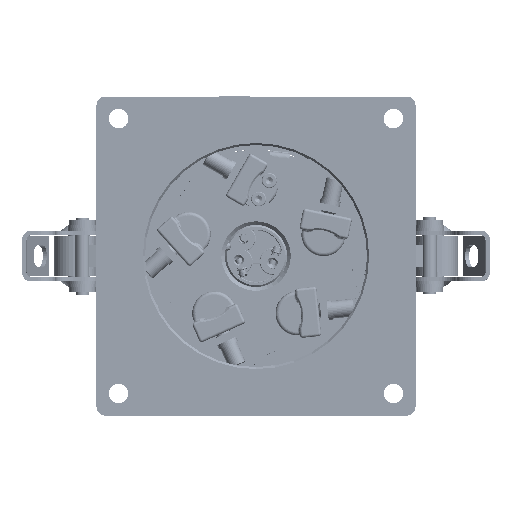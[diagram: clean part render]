
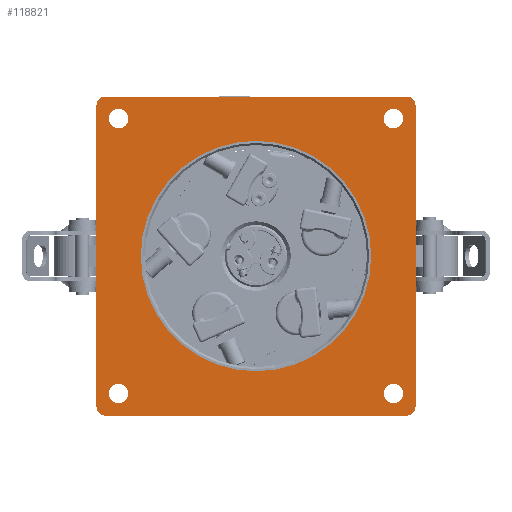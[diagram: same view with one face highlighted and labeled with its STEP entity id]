
A CAD part, front view. The second image highlights one B-rep face of the part: STEP entity #118821.
In plain terms, the highlighted planar face has unit normal (0, -1, 0) as drawn and (0, 0, -1) by its records, which use the part's own axes.
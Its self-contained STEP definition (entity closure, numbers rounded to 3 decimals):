
#118282=DIRECTION('',(-1.,0.,0.));
#118283=VECTOR('',#118282,170.);
#118284=CARTESIAN_POINT('',(85.,-90.,0.));
#118285=LINE('262',#118284,#118283);
#118289=CARTESIAN_POINT('',(85.,-85.,0.));
#118290=DIRECTION('',(0.,0.,-1.));
#118291=DIRECTION('',(1.,0.,0.));
#118292=AXIS2_PLACEMENT_3D('',#118289,#118290,#118291);
#118297=DIRECTION('',(0.,-1.,0.));
#118298=VECTOR('',#118297,170.);
#118299=CARTESIAN_POINT('',(90.,85.,0.));
#118300=LINE('236',#118299,#118298);
#118304=CARTESIAN_POINT('',(85.,85.,0.));
#118305=DIRECTION('',(0.,0.,-1.));
#118306=DIRECTION('',(0.,1.,0.));
#118307=AXIS2_PLACEMENT_3D('',#118304,#118305,#118306);
#118312=DIRECTION('',(1.,0.,0.));
#118313=VECTOR('',#118312,170.);
#118314=CARTESIAN_POINT('',(-85.,90.,0.));
#118315=LINE('242',#118314,#118313);
#118319=CARTESIAN_POINT('',(-85.,85.,0.));
#118320=DIRECTION('',(0.,0.,-1.));
#118321=DIRECTION('',(-1.,0.,0.));
#118322=AXIS2_PLACEMENT_3D('',#118319,#118320,#118321);
#118327=DIRECTION('',(0.,1.,0.));
#118328=VECTOR('',#118327,170.);
#118329=CARTESIAN_POINT('',(-90.,-85.,0.));
#118330=LINE('256',#118329,#118328);
#118334=CARTESIAN_POINT('',(-85.,-85.,0.));
#118335=DIRECTION('',(0.,0.,-1.));
#118336=DIRECTION('',(0.,-1.,0.));
#118337=AXIS2_PLACEMENT_3D('',#118334,#118335,#118336);
#118342=CARTESIAN_POINT('',(-77.5,-77.5,0.));
#118343=DIRECTION('',(0.,0.,1.));
#118344=DIRECTION('',(1.,0.,0.));
#118345=AXIS2_PLACEMENT_3D('',#118342,#118343,#118344);
#118350=CARTESIAN_POINT('',(-77.5,-77.5,0.));
#118351=DIRECTION('',(0.,0.,1.));
#118352=DIRECTION('',(-1.,0.,0.));
#118353=AXIS2_PLACEMENT_3D('',#118350,#118351,#118352);
#118358=CARTESIAN_POINT('',(77.5,-77.5,0.));
#118359=DIRECTION('',(0.,0.,1.));
#118360=DIRECTION('',(1.,0.,0.));
#118361=AXIS2_PLACEMENT_3D('',#118358,#118359,#118360);
#118366=CARTESIAN_POINT('',(77.5,-77.5,0.));
#118367=DIRECTION('',(0.,0.,1.));
#118368=DIRECTION('',(-1.,0.,0.));
#118369=AXIS2_PLACEMENT_3D('',#118366,#118367,#118368);
#118374=CARTESIAN_POINT('',(77.5,77.5,0.));
#118375=DIRECTION('',(0.,0.,1.));
#118376=DIRECTION('',(1.,0.,0.));
#118377=AXIS2_PLACEMENT_3D('',#118374,#118375,#118376);
#118382=CARTESIAN_POINT('',(77.5,77.5,0.));
#118383=DIRECTION('',(0.,0.,1.));
#118384=DIRECTION('',(-1.,0.,0.));
#118385=AXIS2_PLACEMENT_3D('',#118382,#118383,#118384);
#118390=CARTESIAN_POINT('',(-77.5,77.5,0.));
#118391=DIRECTION('',(0.,0.,1.));
#118392=DIRECTION('',(1.,0.,0.));
#118393=AXIS2_PLACEMENT_3D('',#118390,#118391,#118392);
#118398=CARTESIAN_POINT('',(-77.5,77.5,0.));
#118399=DIRECTION('',(0.,0.,1.));
#118400=DIRECTION('',(-1.,0.,0.));
#118401=AXIS2_PLACEMENT_3D('',#118398,#118399,#118400);
#118406=CARTESIAN_POINT('',(0.,0.,0.));
#118407=DIRECTION('',(0.,0.,1.));
#118408=DIRECTION('',(1.,0.,0.));
#118409=AXIS2_PLACEMENT_3D('',#118406,#118407,#118408);
#118414=CARTESIAN_POINT('',(0.,0.,0.));
#118415=DIRECTION('',(0.,0.,1.));
#118416=DIRECTION('',(-1.,0.,0.));
#118417=AXIS2_PLACEMENT_3D('',#118414,#118415,#118416);
#118681=CARTESIAN_POINT('',(-90.,85.,0.));
#118682=CARTESIAN_POINT('',(-85.,90.,0.));
#118683=VERTEX_POINT('',#118681);
#118684=VERTEX_POINT('',#118682);
#118685=CARTESIAN_POINT('',(-83.,-77.5,0.));
#118686=CARTESIAN_POINT('',(-72.,-77.5,0.));
#118687=VERTEX_POINT('',#118685);
#118688=VERTEX_POINT('',#118686);
#118690=CARTESIAN_POINT('',(-83.,77.5,0.));
#118692=VERTEX_POINT('',#118690);
#118693=CARTESIAN_POINT('',(-65.,0.,0.));
#118694=CARTESIAN_POINT('',(65.,0.,0.));
#118695=VERTEX_POINT('',#118693);
#118696=VERTEX_POINT('',#118694);
#118699=CARTESIAN_POINT('',(72.,77.5,0.));
#118700=CARTESIAN_POINT('',(83.,77.5,0.));
#118701=VERTEX_POINT('',#118699);
#118702=VERTEX_POINT('',#118700);
#118707=CARTESIAN_POINT('',(90.,-85.,0.));
#118709=VERTEX_POINT('',#118707);
#118711=CARTESIAN_POINT('',(83.,-77.5,0.));
#118712=CARTESIAN_POINT('',(72.,-77.5,0.));
#118713=VERTEX_POINT('',#118711);
#118714=VERTEX_POINT('',#118712);
#118715=CARTESIAN_POINT('',(85.,90.,0.));
#118717=VERTEX_POINT('',#118715);
#118719=CARTESIAN_POINT('',(-85.,-90.,0.));
#118720=CARTESIAN_POINT('',(-90.,-85.,0.));
#118721=VERTEX_POINT('',#118719);
#118722=VERTEX_POINT('',#118720);
#118723=CARTESIAN_POINT('',(-72.,77.5,0.));
#118724=VERTEX_POINT('',#118723);
#118736=CARTESIAN_POINT('',(90.,85.,0.));
#118738=VERTEX_POINT('',#118736);
#118751=CARTESIAN_POINT('',(85.,-90.,0.));
#118752=VERTEX_POINT('',#118751);
#118769=CARTESIAN_POINT('',(-90.,90.,0.));
#118770=DIRECTION('',(0.,0.,1.));
#118771=DIRECTION('',(1.,0.,0.));
#118772=AXIS2_PLACEMENT_3D('',#118769,#118770,#118771);
#118773=PLANE('287',#118772);
#118775=ORIENTED_EDGE('262',*,*,#118774,.F.);
#118777=ORIENTED_EDGE('267',*,*,#118776,.F.);
#118779=ORIENTED_EDGE('236',*,*,#118778,.F.);
#118781=ORIENTED_EDGE('255',*,*,#118780,.F.);
#118783=ORIENTED_EDGE('242',*,*,#118782,.F.);
#118785=ORIENTED_EDGE('215',*,*,#118784,.F.);
#118787=ORIENTED_EDGE('256',*,*,#118786,.F.);
#118789=ORIENTED_EDGE('225',*,*,#118788,.F.);
#118790=EDGE_LOOP('287',(#118775,#118777,#118779,#118781,#118783,#118785,
#118787,#118789));
#118791=FACE_OUTER_BOUND('287',#118790,.F.);
#118793=ORIENTED_EDGE('263',*,*,#118792,.F.);
#118795=ORIENTED_EDGE('216',*,*,#118794,.F.);
#118796=EDGE_LOOP('287',(#118793,#118795));
#118797=FACE_BOUND('287',#118796,.F.);
#118799=ORIENTED_EDGE('223',*,*,#118798,.F.);
#118801=ORIENTED_EDGE('259',*,*,#118800,.F.);
#118802=EDGE_LOOP('287',(#118799,#118801));
#118803=FACE_BOUND('287',#118802,.F.);
#118805=ORIENTED_EDGE('265',*,*,#118804,.F.);
#118807=ORIENTED_EDGE('220',*,*,#118806,.F.);
#118808=EDGE_LOOP('287',(#118805,#118807));
#118809=FACE_BOUND('287',#118808,.F.);
#118811=ORIENTED_EDGE('226',*,*,#118810,.F.);
#118812=ORIENTED_EDGE('247',*,*,#118758,.F.);
#118813=EDGE_LOOP('287',(#118811,#118812));
#118814=FACE_BOUND('287',#118813,.F.);
#118816=ORIENTED_EDGE('254',*,*,#118815,.F.);
#118818=ORIENTED_EDGE('218',*,*,#118817,.F.);
#118819=EDGE_LOOP('287',(#118816,#118818));
#118820=FACE_BOUND('287',#118819,.F.);
#118293=CIRCLE('267',#118292,5.);
#118308=CIRCLE('255',#118307,5.);
#118323=CIRCLE('215',#118322,5.);
#118338=CIRCLE('225',#118337,5.);
#118346=CIRCLE('263',#118345,5.5);
#118354=CIRCLE('216',#118353,5.5);
#118362=CIRCLE('223',#118361,5.5);
#118370=CIRCLE('259',#118369,5.5);
#118378=CIRCLE('265',#118377,5.5);
#118386=CIRCLE('220',#118385,5.5);
#118394=CIRCLE('226',#118393,5.5);
#118402=CIRCLE('247',#118401,5.5);
#118410=CIRCLE('254',#118409,65.);
#118418=CIRCLE('218',#118417,65.);
#118758=EDGE_CURVE('247',#118692,#118724,#118402,.T.);
#118774=EDGE_CURVE('262',#118752,#118721,#118285,.T.);
#118776=EDGE_CURVE('267',#118709,#118752,#118293,.T.);
#118778=EDGE_CURVE('236',#118738,#118709,#118300,.T.);
#118780=EDGE_CURVE('255',#118717,#118738,#118308,.T.);
#118782=EDGE_CURVE('242',#118684,#118717,#118315,.T.);
#118784=EDGE_CURVE('215',#118683,#118684,#118323,.T.);
#118786=EDGE_CURVE('256',#118722,#118683,#118330,.T.);
#118788=EDGE_CURVE('225',#118721,#118722,#118338,.T.);
#118792=EDGE_CURVE('263',#118688,#118687,#118346,.T.);
#118794=EDGE_CURVE('216',#118687,#118688,#118354,.T.);
#118798=EDGE_CURVE('223',#118713,#118714,#118362,.T.);
#118800=EDGE_CURVE('259',#118714,#118713,#118370,.T.);
#118804=EDGE_CURVE('265',#118702,#118701,#118378,.T.);
#118806=EDGE_CURVE('220',#118701,#118702,#118386,.T.);
#118810=EDGE_CURVE('226',#118724,#118692,#118394,.T.);
#118815=EDGE_CURVE('254',#118696,#118695,#118410,.T.);
#118817=EDGE_CURVE('218',#118695,#118696,#118418,.T.);
#118821=ADVANCED_FACE('287',(#118791,#118797,#118803,#118809,#118814,#118820),
#118773,.F.);
